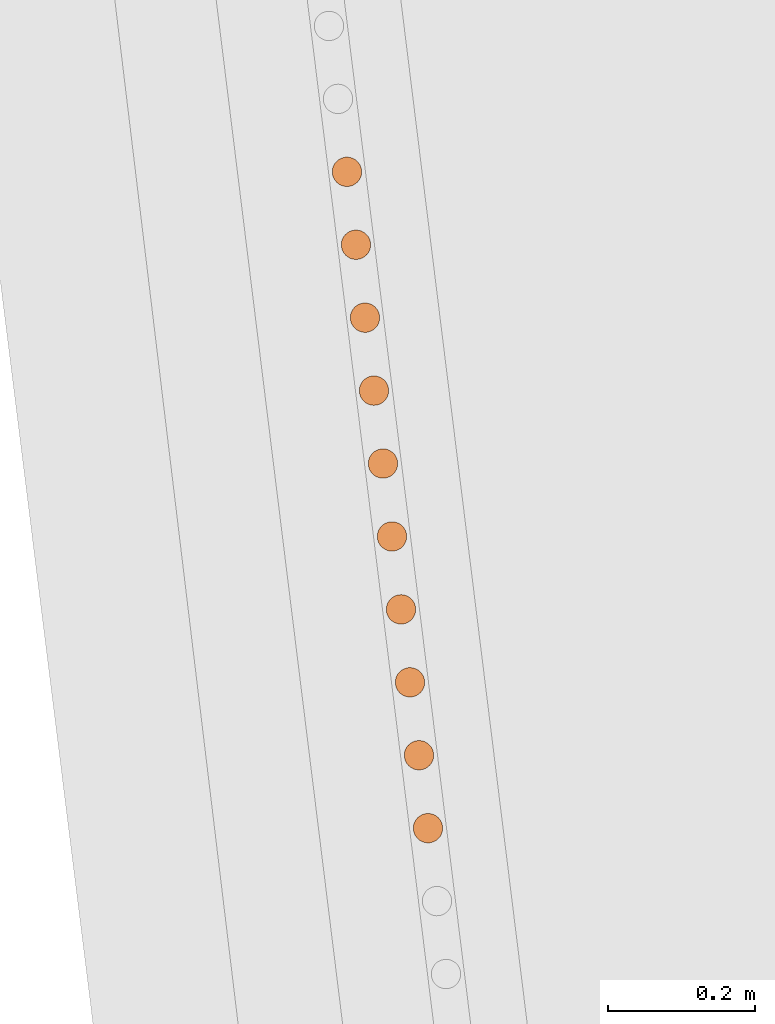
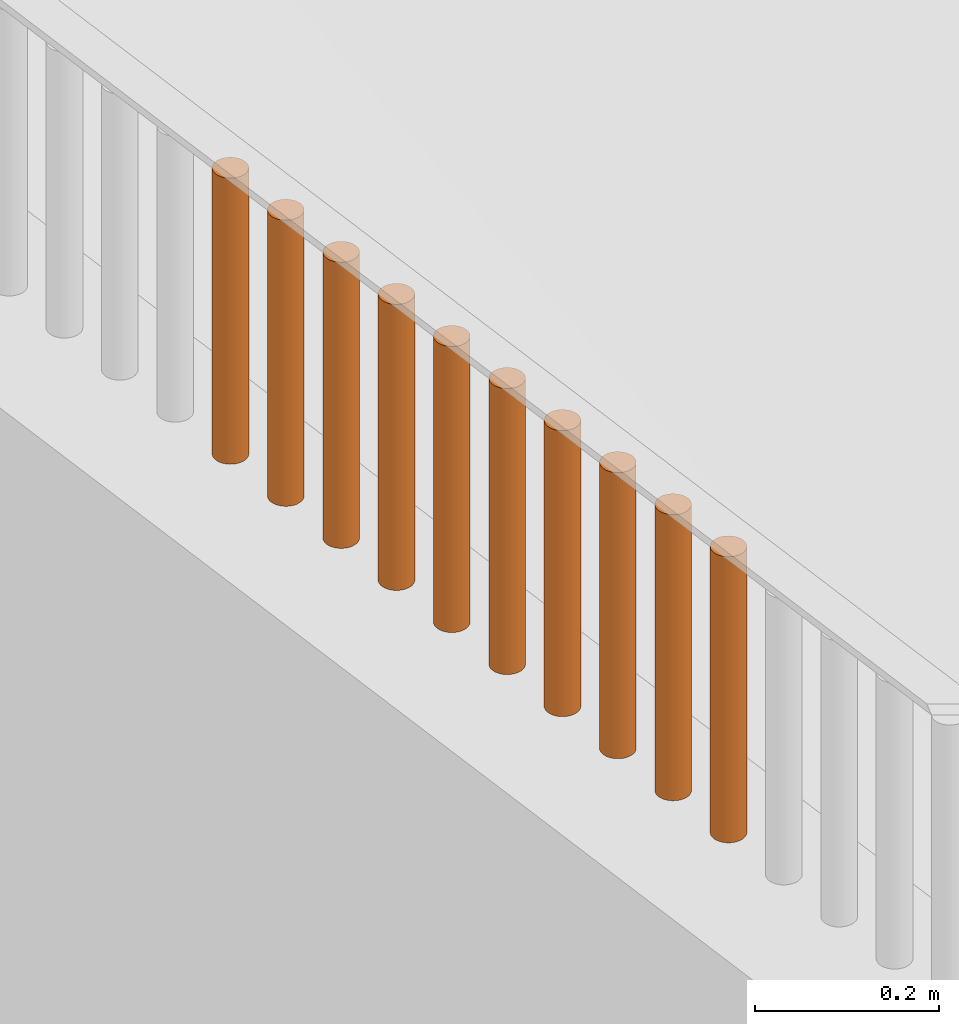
# One storey, part 227 of 1809: 10 proxies, 1 element without a shape of its own.
"""IFC2X3 building model written with IfcOpenShell, lengths in millimetres."""

from ifc_helpers import new_model, entity, si_unit, converted_unit, derived_unit, money_unit, direction, frame, origin_with_axes, place, context, subcontext, project, spatial, faceted_brep, source, transform, mapped, material, type_object, element, aggregate, save


model = new_model("IFC2X3")

# Units and contexts
model_context = context("Model", 3, precision=0.01, world=origin_with_axes(), true_north=direction((0.0, 1.0)))
body_context = subcontext(model_context, "Body", "Model", "MODEL_VIEW")
ifc_project = project(units=[si_unit("LENGTHUNIT", "METRE", prefix="MILLI"), si_unit("AREAUNIT", "SQUARE_METRE"), si_unit("VOLUMEUNIT", "CUBIC_METRE"), converted_unit("PLANEANGLEUNIT", "DEGREE", entity("IfcPlaneAngleMeasure", 0.0174532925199), si_unit("PLANEANGLEUNIT", "RADIAN"), dimensions=[0, 0, 0, 0, 0, 0, 0]), si_unit("SOLIDANGLEUNIT", "STERADIAN"), money_unit("EUR"), converted_unit("TIMEUNIT", "Year", entity("IfcTimeMeasure", 31556926.0), si_unit("TIMEUNIT", "SECOND"), dimensions=[0, 0, 1, 0, 0, 0, 0]), si_unit("MASSUNIT", "GRAM", prefix="KILO"), si_unit("THERMODYNAMICTEMPERATUREUNIT", "DEGREE_CELSIUS"), si_unit("LUMINOUSINTENSITYUNIT", "LUMEN"), si_unit("ENERGYUNIT", "JOULE", prefix="MEGA"), derived_unit("THERMALCONDUCTANCEUNIT", [(si_unit("POWERUNIT", "WATT"), 1), (si_unit("LENGTHUNIT", "METRE"), -1), (si_unit("THERMODYNAMICTEMPERATUREUNIT", "KELVIN"), -1)]), derived_unit("SPECIFICHEATCAPACITYUNIT", [(si_unit("ENERGYUNIT", "JOULE"), 1), (si_unit("MASSUNIT", "GRAM", prefix="KILO"), -1), (si_unit("THERMODYNAMICTEMPERATUREUNIT", "KELVIN"), -1)]), derived_unit("MASSDENSITYUNIT", [(si_unit("MASSUNIT", "GRAM", prefix="KILO"), 1), (si_unit("VOLUMEUNIT", "CUBIC_METRE"), -1)])], contexts=[model_context])

# Site, building, storey
site_placement = place(None, origin_with_axes())
site = spatial("IfcSite", under=ifc_project, at=site_placement, Name="Politse- ja Piirivalveameti ning Päästeameti ühishoone", CompositionType="ELEMENT")
building_placement = place(site_placement, origin_with_axes())
building = spatial("IfcBuilding", under=site, at=building_placement, Name="Politse- ja Piirivalveameti ning Päästeameti ühishoone", CompositionType="ELEMENT")
storey_placement = place(building_placement, origin_with_axes())
storey = spatial("IfcBuildingStorey", under=building, at=storey_placement, Name="Esimene korrus", CompositionType="ELEMENT", Elevation=0.0)

# Proxies
building_element_proxy_type_1 = type_object("IfcBuildingElementProxyType", Name="Railing Type", PredefinedType="NOTDEFINED")
proxy_1_placement = place(storey_placement, frame((-18956.5522504, -53688.4757966, 2100.0), z_axis=(0.0, 0.0, 1.0), x_axis=(1.0, 0.0, 0.0)))
proxy_1 = element("IfcBuildingElementProxy", 1, at=proxy_1_placement, inside=storey, type_object=building_element_proxy_type_1, Name="PIIRDEAED")
ifc_material = material(Name="ET-06_Teras - Konstruktsioon")
building_element_proxy_type_2 = type_object("IfcBuildingElementProxyType", Name="IfcBuildingElementProxy", PredefinedType="NOTDEFINED")
shared_shape_1 = source(origin_with_axes(), body_context, "Body", "Brep", [
    faceted_brep([(0.0, -20.0, 0.0), (3.47296355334, -19.6961550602, 0.0), (3.47296355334, -19.6961550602, 380.000012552), (0.0, -20.0, 380.000012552), (-3.47296355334, -19.6961550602, 0.0), (-6.84040286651, -18.7938524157, 0.0), (-10.0, -17.3205080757, 0.0), (-12.8557521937, -15.3208888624, 0.0), (-15.3208888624, -12.8557521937, 0.0), (-17.3205080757, -10.0, 0.0), (-18.7938524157, -6.84040286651, 0.0), (-19.6961550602, -3.47296355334, 0.0), (-20.0, 0.0, 0.0), (-19.6961550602, 3.47296355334, 0.0), (-18.7938524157, 6.84040286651, 0.0), (-17.3205080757, 10.0, 0.0), (-15.3208888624, 12.8557521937, 0.0), (-12.8557521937, 15.3208888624, 0.0), (-10.0, 17.3205080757, 0.0), (-6.84040286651, 18.7938524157, 0.0), (-3.47296355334, 19.6961550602, 0.0), (0.0, 20.0, 0.0), (3.47296355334, 19.6961550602, 0.0), (6.84040286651, 18.7938524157, 0.0), (10.0, 17.3205080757, 0.0), (12.8557521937, 15.3208888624, 0.0), (15.3208888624, 12.8557521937, 0.0), (17.3205080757, 10.0, 0.0), (18.7938524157, 6.84040286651, 0.0), (19.6961550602, 3.47296355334, 0.0), (20.0, 0.0, 0.0), (19.6961550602, -3.47296355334, 0.0), (18.7938524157, -6.84040286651, 0.0), (17.3205080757, -10.0, 0.0), (15.3208888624, -12.8557521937, 0.0), (12.8557521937, -15.3208888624, 0.0), (10.0, -17.3205080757, 0.0), (6.84040286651, -18.7938524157, 0.0), (6.84040286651, -18.7938524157, 380.000012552), (10.0, -17.3205080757, 380.000012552), (12.8557521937, -15.3208888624, 380.000012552), (15.3208888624, -12.8557521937, 380.000012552), (17.3205080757, -10.0, 380.000012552), (18.7938524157, -6.84040286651, 380.000012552), (19.6961550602, -3.47296355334, 380.000012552), (20.0, 0.0, 380.000012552), (19.6961550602, 3.47296355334, 380.000012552), (18.7938524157, 6.84040286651, 380.000012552), (17.3205080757, 10.0, 380.000012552), (15.3208888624, 12.8557521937, 380.000012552), (12.8557521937, 15.3208888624, 380.000012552), (10.0, 17.3205080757, 380.000012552), (6.84040286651, 18.7938524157, 380.000012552), (3.47296355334, 19.6961550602, 380.000012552), (0.0, 20.0, 380.000012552), (-3.47296355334, 19.6961550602, 380.000012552), (-6.84040286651, 18.7938524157, 380.000012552), (-10.0, 17.3205080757, 380.000012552), (-12.8557521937, 15.3208888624, 380.000012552), (-15.3208888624, 12.8557521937, 380.000012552), (-17.3205080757, 10.0, 380.000012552), (-18.7938524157, 6.84040286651, 380.000012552), (-19.6961550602, 3.47296355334, 380.000012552), (-20.0, 0.0, 380.000012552), (-19.6961550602, -3.47296355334, 380.000012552), (-18.7938524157, -6.84040286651, 380.000012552), (-17.3205080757, -10.0, 380.000012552), (-15.3208888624, -12.8557521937, 380.000012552), (-12.8557521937, -15.3208888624, 380.000012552), (-10.0, -17.3205080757, 380.000012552), (-6.84040286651, -18.7938524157, 380.000012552), (-3.47296355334, -19.6961550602, 380.000012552)], [[[0, 1, 2, 3]], [[0, 4, 5, 6, 7, 8, 9, 10, 11, 12, 13, 14, 15, 16, 17, 18, 19, 20, 21, 22, 23, 24, 25, 26, 27, 28, 29, 30, 31, 32, 33, 34, 35, 36, 37, 1]], [[1, 37, 38, 2]], [[3, 2, 38, 39, 40, 41, 42, 43, 44, 45, 46, 47, 48, 49, 50, 51, 52, 53, 54, 55, 56, 57, 58, 59, 60, 61, 62, 63, 64, 65, 66, 67, 68, 69, 70, 71]], [[4, 0, 3, 71]], [[5, 4, 71, 70]], [[6, 5, 70, 69]], [[7, 6, 69, 68]], [[8, 7, 68, 67]], [[9, 8, 67, 66]], [[10, 9, 66, 65]], [[11, 10, 65, 64]], [[12, 11, 64, 63]], [[13, 12, 63, 62]], [[14, 13, 62, 61]], [[15, 14, 61, 60]], [[16, 15, 60, 59]], [[17, 16, 59, 58]], [[18, 17, 58, 57]], [[19, 18, 57, 56]], [[20, 19, 56, 55]], [[21, 20, 55, 54]], [[22, 21, 54, 53]], [[23, 22, 53, 52]], [[24, 23, 52, 51]], [[25, 24, 51, 50]], [[26, 25, 50, 49]], [[27, 26, 49, 48]], [[28, 27, 48, 47]], [[29, 28, 47, 46]], [[30, 29, 46, 45]], [[31, 30, 45, 44]], [[32, 31, 44, 43]], [[33, 32, 43, 42]], [[34, 33, 42, 41]], [[35, 34, 41, 40]], [[36, 35, 40, 39]], [[37, 36, 39, 38]]]),
])
proxy_2_placement = place(proxy_1_placement, frame((-5702.47169293, 45364.700838, -1.25517001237e-05), z_axis=(0.0, 0.0, 1.0), x_axis=(1.0, 0.0, 0.0)))
proxy_2 = element("IfcBuildingElementProxy", 2, at=proxy_2_placement, type_object=building_element_proxy_type_2, material=ifc_material, Name="BALUSTER - 001", context=body_context, shape_type="MappedRepresentation", body=[
    mapped(shared_shape_1, transform((0.0, 0.0, 0.0), x_axis=(0.992468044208, 0.122503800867, 0.0), y_axis=(-0.122503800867, 0.992468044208, 0.0), z_axis=(0.0, 0.0, 1.0))),
])
proxy_3_placement = place(proxy_1_placement, frame((-5726.96710276, 45563.1511008, -1.25517001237e-05), z_axis=(0.0, 0.0, 1.0), x_axis=(1.0, 0.0, 0.0)))
proxy_3 = element("IfcBuildingElementProxy", 3, at=proxy_3_placement, type_object=building_element_proxy_type_2, material=ifc_material, Name="BALUSTER - 001", context=body_context, shape_type="MappedRepresentation", body=[
    mapped(shared_shape_1, transform((0.0, 0.0, 0.0), x_axis=(0.992468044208, 0.122503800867, 0.0), y_axis=(-0.122503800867, 0.992468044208, 0.0), z_axis=(0.0, 0.0, 1.0))),
])
proxy_4_placement = place(proxy_1_placement, frame((-5739.21480767, 45662.3762322, -1.25517001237e-05), z_axis=(0.0, 0.0, 1.0), x_axis=(1.0, 0.0, 0.0)))
proxy_4 = element("IfcBuildingElementProxy", 4, at=proxy_4_placement, type_object=building_element_proxy_type_2, material=ifc_material, Name="BALUSTER - 001", context=body_context, shape_type="MappedRepresentation", body=[
    mapped(shared_shape_1, transform((0.0, 0.0, 0.0), x_axis=(0.992468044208, 0.122503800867, 0.0), y_axis=(-0.122503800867, 0.992468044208, 0.0), z_axis=(0.0, 0.0, 1.0))),
])
proxy_5_placement = place(proxy_1_placement, frame((-5751.46251258, 45761.6013637, -1.25517001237e-05), z_axis=(0.0, 0.0, 1.0), x_axis=(1.0, 0.0, 0.0)))
proxy_5 = element("IfcBuildingElementProxy", 5, at=proxy_5_placement, type_object=building_element_proxy_type_2, material=ifc_material, Name="BALUSTER - 001", context=body_context, shape_type="MappedRepresentation", body=[
    mapped(shared_shape_1, transform((0.0, 0.0, 0.0), x_axis=(0.992468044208, 0.122503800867, 0.0), y_axis=(-0.122503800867, 0.992468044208, 0.0), z_axis=(0.0, 0.0, 1.0))),
])
shared_shape_2 = source(origin_with_axes(), body_context, "Body", "Brep", [
    faceted_brep([(0.0, -20.0, 0.0), (3.47296355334, -19.6961550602, 0.0), (3.47296355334, -19.6961550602, 380.000012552), (0.0, -20.0, 380.000012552), (-3.47296355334, -19.6961550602, 0.0), (-6.84040286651, -18.7938524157, 0.0), (-10.0, -17.3205080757, 0.0), (-12.8557521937, -15.3208888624, 0.0), (-15.3208888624, -12.8557521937, 0.0), (-17.3205080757, -10.0, 0.0), (-18.7938524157, -6.84040286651, 0.0), (-19.6961550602, -3.47296355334, 0.0), (-20.0, 0.0, 0.0), (-19.6961550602, 3.47296355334, 0.0), (-18.7938524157, 6.84040286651, 0.0), (-17.3205080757, 10.0, 0.0), (-15.3208888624, 12.8557521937, 0.0), (-12.8557521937, 15.3208888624, 0.0), (-10.0, 17.3205080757, 0.0), (-6.84040286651, 18.7938524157, 0.0), (-3.47296355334, 19.6961550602, 0.0), (0.0, 20.0, 0.0), (3.47296355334, 19.6961550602, 0.0), (6.84040286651, 18.7938524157, 0.0), (10.0, 17.3205080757, 0.0), (12.8557521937, 15.3208888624, 0.0), (15.3208888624, 12.8557521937, 0.0), (17.3205080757, 10.0, 0.0), (18.7938524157, 6.84040286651, 0.0), (19.6961550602, 3.47296355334, 0.0), (20.0, 0.0, 0.0), (19.6961550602, -3.47296355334, 0.0), (18.7938524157, -6.84040286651, 0.0), (17.3205080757, -10.0, 0.0), (15.3208888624, -12.8557521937, 0.0), (12.8557521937, -15.3208888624, 0.0), (10.0, -17.3205080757, 0.0), (6.84040286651, -18.7938524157, 0.0), (6.84040286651, -18.7938524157, 380.000012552), (10.0, -17.3205080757, 380.000012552), (12.8557521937, -15.3208888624, 380.000012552), (15.3208888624, -12.8557521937, 380.000012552), (17.3205080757, -10.0, 380.000012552), (18.7938524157, -6.84040286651, 380.000012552), (19.6961550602, -3.47296355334, 380.000012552), (20.0, 0.0, 380.000012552), (19.6961550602, 3.47296355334, 380.000012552), (18.7938524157, 6.84040286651, 380.000012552), (17.3205080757, 10.0, 380.000012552), (15.3208888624, 12.8557521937, 380.000012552), (12.8557521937, 15.3208888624, 380.000012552), (10.0, 17.3205080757, 380.000012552), (6.84040286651, 18.7938524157, 380.000012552), (3.47296355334, 19.6961550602, 380.000012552), (0.0, 20.0, 380.000012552), (-3.47296355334, 19.6961550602, 380.000012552), (-6.84040286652, 18.7938524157, 380.000012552), (-10.0, 17.3205080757, 380.000012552), (-12.8557521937, 15.3208888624, 380.000012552), (-15.3208888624, 12.8557521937, 380.000012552), (-17.3205080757, 10.0, 380.000012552), (-18.7938524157, 6.84040286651, 380.000012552), (-19.6961550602, 3.47296355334, 380.000012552), (-20.0, 0.0, 380.000012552), (-19.6961550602, -3.47296355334, 380.000012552), (-18.7938524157, -6.84040286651, 380.000012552), (-17.3205080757, -10.0, 380.000012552), (-15.3208888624, -12.8557521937, 380.000012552), (-12.8557521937, -15.3208888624, 380.000012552), (-10.0, -17.3205080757, 380.000012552), (-6.84040286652, -18.7938524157, 380.000012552), (-3.47296355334, -19.6961550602, 380.000012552)], [[[0, 1, 2, 3]], [[0, 4, 5, 6, 7, 8, 9, 10, 11, 12, 13, 14, 15, 16, 17, 18, 19, 20, 21, 22, 23, 24, 25, 26, 27, 28, 29, 30, 31, 32, 33, 34, 35, 36, 37, 1]], [[1, 37, 38, 2]], [[3, 2, 38, 39, 40, 41, 42, 43, 44, 45, 46, 47, 48, 49, 50, 51, 52, 53, 54, 55, 56, 57, 58, 59, 60, 61, 62, 63, 64, 65, 66, 67, 68, 69, 70, 71]], [[4, 0, 3, 71]], [[5, 4, 71, 70]], [[6, 5, 70, 69]], [[7, 6, 69, 68]], [[8, 7, 68, 67]], [[9, 8, 67, 66]], [[10, 9, 66, 65]], [[11, 10, 65, 64]], [[12, 11, 64, 63]], [[13, 12, 63, 62]], [[14, 13, 62, 61]], [[15, 14, 61, 60]], [[16, 15, 60, 59]], [[17, 16, 59, 58]], [[18, 17, 58, 57]], [[19, 18, 57, 56]], [[20, 19, 56, 55]], [[21, 20, 55, 54]], [[22, 21, 54, 53]], [[23, 22, 53, 52]], [[24, 23, 52, 51]], [[25, 24, 51, 50]], [[26, 25, 50, 49]], [[27, 26, 49, 48]], [[28, 27, 48, 47]], [[29, 28, 47, 46]], [[30, 29, 46, 45]], [[31, 30, 45, 44]], [[32, 31, 44, 43]], [[33, 32, 43, 42]], [[34, 33, 42, 41]], [[35, 34, 41, 40]], [[36, 35, 40, 39]], [[37, 36, 39, 38]]]),
])
proxy_6_placement = place(proxy_1_placement, frame((-5775.95792241, 45960.0516265, -1.25517001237e-05), z_axis=(0.0, 0.0, 1.0), x_axis=(1.0, 0.0, 0.0)))
proxy_6 = element("IfcBuildingElementProxy", 6, at=proxy_6_placement, type_object=building_element_proxy_type_2, material=ifc_material, Name="BALUSTER - 001", context=body_context, shape_type="MappedRepresentation", body=[
    mapped(shared_shape_2, transform((0.0, 0.0, 0.0), x_axis=(0.992468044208, 0.122503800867, 0.0), y_axis=(-0.122503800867, 0.992468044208, 0.0), z_axis=(0.0, 0.0, 1.0))),
])
shared_shape_3 = source(origin_with_axes(), body_context, "Body", "Brep", [
    faceted_brep([(0.0, -20.0, 0.0), (3.47296355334, -19.6961550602, 0.0), (3.47296355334, -19.6961550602, 380.000012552), (0.0, -20.0, 380.000012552), (-3.47296355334, -19.6961550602, 0.0), (-6.84040286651, -18.7938524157, 0.0), (-10.0, -17.3205080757, 0.0), (-12.8557521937, -15.3208888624, 0.0), (-15.3208888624, -12.8557521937, 0.0), (-17.3205080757, -10.0, 0.0), (-18.7938524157, -6.84040286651, 0.0), (-19.6961550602, -3.47296355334, 0.0), (-20.0, 0.0, 0.0), (-19.6961550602, 3.47296355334, 0.0), (-18.7938524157, 6.84040286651, 0.0), (-17.3205080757, 10.0, 0.0), (-15.3208888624, 12.8557521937, 0.0), (-12.8557521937, 15.3208888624, 0.0), (-10.0, 17.3205080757, 0.0), (-6.84040286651, 18.7938524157, 0.0), (-3.47296355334, 19.6961550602, 0.0), (0.0, 20.0, 0.0), (3.47296355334, 19.6961550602, 0.0), (6.84040286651, 18.7938524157, 0.0), (10.0, 17.3205080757, 0.0), (12.8557521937, 15.3208888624, 0.0), (15.3208888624, 12.8557521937, 0.0), (17.3205080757, 10.0, 0.0), (18.7938524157, 6.84040286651, 0.0), (19.6961550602, 3.47296355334, 0.0), (20.0, 0.0, 0.0), (19.6961550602, -3.47296355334, 0.0), (18.7938524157, -6.84040286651, 0.0), (17.3205080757, -10.0, 0.0), (15.3208888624, -12.8557521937, 0.0), (12.8557521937, -15.3208888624, 0.0), (10.0, -17.3205080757, 0.0), (6.84040286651, -18.7938524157, 0.0), (6.84040286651, -18.7938524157, 380.000012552), (10.0, -17.3205080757, 380.000012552), (12.8557521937, -15.3208888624, 380.000012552), (15.3208888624, -12.8557521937, 380.000012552), (17.3205080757, -10.0, 380.000012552), (18.7938524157, -6.84040286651, 380.000012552), (19.6961550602, -3.47296355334, 380.000012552), (20.0, 0.0, 380.000012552), (19.6961550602, 3.47296355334, 380.000012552), (18.7938524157, 6.84040286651, 380.000012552), (17.3205080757, 10.0, 380.000012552), (15.3208888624, 12.8557521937, 380.000012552), (12.8557521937, 15.3208888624, 380.000012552), (10.0, 17.3205080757, 380.000012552), (6.84040286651, 18.7938524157, 380.000012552), (3.47296355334, 19.6961550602, 380.000012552), (0.0, 20.0, 380.000012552), (-3.47296355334, 19.6961550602, 380.000012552), (-6.84040286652, 18.7938524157, 380.000012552), (-10.0, 17.3205080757, 380.000012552), (-12.8557521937, 15.3208888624, 380.000012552), (-15.3208888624, 12.8557521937, 380.000012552), (-17.3205080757, 10.0, 380.000012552), (-18.7938524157, 6.84040286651, 380.000012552), (-19.6961550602, 3.47296355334, 380.000012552), (-20.0, 0.0, 380.000012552), (-19.6961550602, -3.47296355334, 380.000012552), (-18.7938524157, -6.84040286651, 380.000012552), (-17.3205080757, -10.0, 380.000012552), (-15.3208888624, -12.8557521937, 380.000012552), (-12.8557521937, -15.3208888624, 380.000012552), (-10.0, -17.3205080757, 380.000012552), (-6.84040286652, -18.7938524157, 380.000012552), (-3.47296355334, -19.6961550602, 380.000012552)], [[[0, 1, 2, 3]], [[0, 4, 5, 6, 7, 8, 9, 10, 11, 12, 13, 14, 15, 16, 17, 18, 19, 20, 21, 22, 23, 24, 25, 26, 27, 28, 29, 30, 31, 32, 33, 34, 35, 36, 37, 1]], [[1, 37, 38, 2]], [[3, 2, 38, 39, 40, 41, 42, 43, 44, 45, 46, 47, 48, 49, 50, 51, 52, 53, 54, 55, 56, 57, 58, 59, 60, 61, 62, 63, 64, 65, 66, 67, 68, 69, 70, 71]], [[4, 0, 3, 71]], [[5, 4, 71, 70]], [[6, 5, 70, 69]], [[7, 6, 69, 68]], [[8, 7, 68, 67]], [[9, 8, 67, 66]], [[10, 9, 66, 65]], [[11, 10, 65, 64]], [[12, 11, 64, 63]], [[13, 12, 63, 62]], [[14, 13, 62, 61]], [[15, 14, 61, 60]], [[16, 15, 60, 59]], [[17, 16, 59, 58]], [[18, 17, 58, 57]], [[19, 18, 57, 56]], [[20, 19, 56, 55]], [[21, 20, 55, 54]], [[22, 21, 54, 53]], [[23, 22, 53, 52]], [[24, 23, 52, 51]], [[25, 24, 51, 50]], [[26, 25, 50, 49]], [[27, 26, 49, 48]], [[28, 27, 48, 47]], [[29, 28, 47, 46]], [[30, 29, 46, 45]], [[31, 30, 45, 44]], [[32, 31, 44, 43]], [[33, 32, 43, 42]], [[34, 33, 42, 41]], [[35, 34, 41, 40]], [[36, 35, 40, 39]], [[37, 36, 39, 38]]]),
])
proxy_7_placement = place(proxy_1_placement, frame((-5763.7102175, 45860.8264951, -1.25517001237e-05), z_axis=(0.0, 0.0, 1.0), x_axis=(1.0, 0.0, 0.0)))
proxy_7 = element("IfcBuildingElementProxy", 7, at=proxy_7_placement, type_object=building_element_proxy_type_2, material=ifc_material, Name="BALUSTER - 001", context=body_context, shape_type="MappedRepresentation", body=[
    mapped(shared_shape_3, transform((0.0, 0.0, 0.0), x_axis=(0.992468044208, 0.122503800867, 0.0), y_axis=(-0.122503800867, 0.992468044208, 0.0), z_axis=(0.0, 0.0, 1.0))),
])
proxy_8_placement = place(proxy_1_placement, frame((-5812.70103715, 46257.7270208, -1.25517001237e-05), z_axis=(0.0, 0.0, 1.0), x_axis=(1.0, 0.0, 0.0)))
proxy_8 = element("IfcBuildingElementProxy", 8, at=proxy_8_placement, type_object=building_element_proxy_type_2, material=ifc_material, Name="BALUSTER - 001", context=body_context, shape_type="MappedRepresentation", body=[
    mapped(shared_shape_3, transform((0.0, 0.0, 0.0), x_axis=(0.992468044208, 0.122503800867, 0.0), y_axis=(-0.122503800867, 0.992468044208, 0.0), z_axis=(0.0, 0.0, 1.0))),
])
shared_shape_4 = source(origin_with_axes(), body_context, "Body", "Brep", [
    faceted_brep([(0.0, -20.0, 0.0), (3.47296355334, -19.6961550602, 0.0), (3.47296355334, -19.6961550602, 380.000012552), (0.0, -20.0, 380.000012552), (-3.47296355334, -19.6961550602, 0.0), (-6.84040286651, -18.7938524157, 0.0), (-10.0, -17.3205080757, 0.0), (-12.8557521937, -15.3208888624, 0.0), (-15.3208888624, -12.8557521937, 0.0), (-17.3205080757, -10.0, 0.0), (-18.7938524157, -6.84040286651, 0.0), (-19.6961550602, -3.47296355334, 0.0), (-20.0, 0.0, 0.0), (-19.6961550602, 3.47296355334, 0.0), (-18.7938524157, 6.84040286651, 0.0), (-17.3205080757, 10.0, 0.0), (-15.3208888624, 12.8557521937, 0.0), (-12.8557521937, 15.3208888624, 0.0), (-10.0, 17.3205080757, 0.0), (-6.84040286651, 18.7938524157, 0.0), (-3.47296355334, 19.6961550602, 0.0), (0.0, 20.0, 0.0), (3.47296355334, 19.6961550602, 0.0), (6.84040286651, 18.7938524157, 0.0), (10.0, 17.3205080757, 0.0), (12.8557521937, 15.3208888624, 0.0), (15.3208888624, 12.8557521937, 0.0), (17.3205080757, 10.0, 0.0), (18.7938524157, 6.84040286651, 0.0), (19.6961550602, 3.47296355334, 0.0), (20.0, 0.0, 0.0), (19.6961550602, -3.47296355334, 0.0), (18.7938524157, -6.84040286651, 0.0), (17.3205080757, -10.0, 0.0), (15.3208888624, -12.8557521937, 0.0), (12.8557521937, -15.3208888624, 0.0), (10.0, -17.3205080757, 0.0), (6.84040286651, -18.7938524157, 0.0), (6.84040286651, -18.7938524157, 380.000012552), (10.0, -17.3205080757, 380.000012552), (12.8557521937, -15.3208888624, 380.000012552), (15.3208888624, -12.8557521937, 380.000012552), (17.3205080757, -10.0, 380.000012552), (18.7938524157, -6.84040286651, 380.000012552), (19.6961550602, -3.47296355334, 380.000012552), (20.0, 0.0, 380.000012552), (19.6961550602, 3.47296355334, 380.000012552), (18.7938524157, 6.84040286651, 380.000012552), (17.3205080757, 10.0, 380.000012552), (15.3208888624, 12.8557521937, 380.000012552), (12.8557521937, 15.3208888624, 380.000012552), (10.0, 17.3205080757, 380.000012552), (6.84040286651, 18.7938524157, 380.000012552), (3.47296355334, 19.6961550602, 380.000012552), (0.0, 20.0, 380.000012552), (-3.47296355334, 19.6961550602, 380.000012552), (-6.84040286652, 18.7938524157, 380.000012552), (-10.0, 17.3205080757, 380.000012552), (-12.8557521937, 15.3208888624, 380.000012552), (-15.3208888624, 12.8557521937, 380.000012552), (-17.3205080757, 10.0, 380.000012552), (-18.7938524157, 6.84040286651, 380.000012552), (-19.6961550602, 3.47296355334, 380.000012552), (-20.0, 0.0, 380.000012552), (-19.6961550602, -3.47296355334, 380.000012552), (-18.7938524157, -6.84040286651, 380.000012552), (-17.3205080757, -10.0, 380.000012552), (-15.3208888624, -12.8557521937, 380.000012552), (-12.8557521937, -15.3208888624, 380.000012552), (-10.0, -17.3205080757, 380.000012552), (-6.84040286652, -18.7938524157, 380.000012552), (-3.47296355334, -19.6961550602, 380.000012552)], [[[0, 1, 2, 3]], [[0, 4, 5, 6, 7, 8, 9, 10, 11, 12, 13, 14, 15, 16, 17, 18, 19, 20, 21, 22, 23, 24, 25, 26, 27, 28, 29, 30, 31, 32, 33, 34, 35, 36, 37, 1]], [[1, 37, 38, 2]], [[3, 2, 38, 39, 40, 41, 42, 43, 44, 45, 46, 47, 48, 49, 50, 51, 52, 53, 54, 55, 56, 57, 58, 59, 60, 61, 62, 63, 64, 65, 66, 67, 68, 69, 70, 71]], [[4, 0, 3, 71]], [[5, 4, 71, 70]], [[6, 5, 70, 69]], [[7, 6, 69, 68]], [[8, 7, 68, 67]], [[9, 8, 67, 66]], [[10, 9, 66, 65]], [[11, 10, 65, 64]], [[12, 11, 64, 63]], [[13, 12, 63, 62]], [[14, 13, 62, 61]], [[15, 14, 61, 60]], [[16, 15, 60, 59]], [[17, 16, 59, 58]], [[18, 17, 58, 57]], [[19, 18, 57, 56]], [[20, 19, 56, 55]], [[21, 20, 55, 54]], [[22, 21, 54, 53]], [[23, 22, 53, 52]], [[24, 23, 52, 51]], [[25, 24, 51, 50]], [[26, 25, 50, 49]], [[27, 26, 49, 48]], [[28, 27, 48, 47]], [[29, 28, 47, 46]], [[30, 29, 46, 45]], [[31, 30, 45, 44]], [[32, 31, 44, 43]], [[33, 32, 43, 42]], [[34, 33, 42, 41]], [[35, 34, 41, 40]], [[36, 35, 40, 39]], [[37, 36, 39, 38]]]),
])
proxy_9_placement = place(proxy_1_placement, frame((-5714.71939784, 45463.9259694, -1.25517001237e-05), z_axis=(0.0, 0.0, 1.0), x_axis=(1.0, 0.0, 0.0)))
proxy_9 = element("IfcBuildingElementProxy", 9, at=proxy_9_placement, type_object=building_element_proxy_type_2, material=ifc_material, Name="BALUSTER - 001", context=body_context, shape_type="MappedRepresentation", body=[
    mapped(shared_shape_4, transform((0.0, 0.0, 0.0), x_axis=(0.992468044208, 0.122503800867, 0.0), y_axis=(-0.122503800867, 0.992468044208, 0.0), z_axis=(0.0, 0.0, 1.0))),
])
shared_shape_5 = source(origin_with_axes(), body_context, "Body", "Brep", [
    faceted_brep([(0.0, -20.0, 0.0), (3.47296355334, -19.6961550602, 0.0), (3.47296355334, -19.6961550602, 380.000012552), (0.0, -20.0, 380.000012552), (-3.47296355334, -19.6961550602, 0.0), (-6.84040286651, -18.7938524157, 0.0), (-10.0, -17.3205080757, 0.0), (-12.8557521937, -15.3208888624, 0.0), (-15.3208888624, -12.8557521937, 0.0), (-17.3205080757, -10.0, 0.0), (-18.7938524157, -6.84040286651, 0.0), (-19.6961550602, -3.47296355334, 0.0), (-20.0, 0.0, 0.0), (-19.6961550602, 3.47296355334, 0.0), (-18.7938524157, 6.84040286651, 0.0), (-17.3205080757, 10.0, 0.0), (-15.3208888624, 12.8557521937, 0.0), (-12.8557521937, 15.3208888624, 0.0), (-10.0, 17.3205080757, 0.0), (-6.84040286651, 18.7938524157, 0.0), (-3.47296355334, 19.6961550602, 0.0), (0.0, 20.0, 0.0), (3.47296355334, 19.6961550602, 0.0), (6.84040286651, 18.7938524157, 0.0), (10.0, 17.3205080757, 0.0), (12.8557521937, 15.3208888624, 0.0), (15.3208888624, 12.8557521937, 0.0), (17.3205080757, 10.0, 0.0), (18.7938524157, 6.84040286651, 0.0), (19.6961550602, 3.47296355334, 0.0), (20.0, 0.0, 0.0), (19.6961550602, -3.47296355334, 0.0), (18.7938524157, -6.84040286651, 0.0), (17.3205080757, -10.0, 0.0), (15.3208888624, -12.8557521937, 0.0), (12.8557521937, -15.3208888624, 0.0), (10.0, -17.3205080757, 0.0), (6.84040286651, -18.7938524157, 0.0), (6.84040286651, -18.7938524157, 380.000012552), (10.0, -17.3205080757, 380.000012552), (12.8557521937, -15.3208888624, 380.000012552), (15.3208888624, -12.8557521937, 380.000012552), (17.3205080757, -10.0, 380.000012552), (18.7938524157, -6.84040286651, 380.000012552), (19.6961550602, -3.47296355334, 380.000012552), (20.0, 0.0, 380.000012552), (19.6961550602, 3.47296355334, 380.000012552), (18.7938524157, 6.84040286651, 380.000012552), (17.3205080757, 10.0, 380.000012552), (15.3208888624, 12.8557521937, 380.000012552), (12.8557521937, 15.3208888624, 380.000012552), (10.0, 17.3205080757, 380.000012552), (6.84040286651, 18.7938524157, 380.000012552), (3.47296355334, 19.6961550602, 380.000012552), (0.0, 20.0, 380.000012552), (-3.47296355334, 19.6961550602, 380.000012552), (-6.84040286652, 18.7938524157, 380.000012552), (-10.0, 17.3205080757, 380.000012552), (-12.8557521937, 15.3208888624, 380.000012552), (-15.3208888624, 12.8557521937, 380.000012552), (-17.3205080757, 10.0, 380.000012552), (-18.7938524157, 6.84040286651, 380.000012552), (-19.6961550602, 3.47296355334, 380.000012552), (-20.0, 0.0, 380.000012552), (-19.6961550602, -3.47296355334, 380.000012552), (-18.7938524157, -6.84040286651, 380.000012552), (-17.3205080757, -10.0, 380.000012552), (-15.3208888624, -12.8557521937, 380.000012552), (-12.8557521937, -15.3208888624, 380.000012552), (-10.0, -17.3205080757, 380.000012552), (-6.84040286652, -18.7938524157, 380.000012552), (-3.47296355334, -19.6961550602, 380.000012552)], [[[0, 1, 2, 3]], [[0, 4, 5, 6, 7, 8, 9, 10, 11, 12, 13, 14, 15, 16, 17, 18, 19, 20, 21, 22, 23, 24, 25, 26, 27, 28, 29, 30, 31, 32, 33, 34, 35, 36, 37, 1]], [[1, 37, 38, 2]], [[3, 2, 38, 39, 40, 41, 42, 43, 44, 45, 46, 47, 48, 49, 50, 51, 52, 53, 54, 55, 56, 57, 58, 59, 60, 61, 62, 63, 64, 65, 66, 67, 68, 69, 70, 71]], [[4, 0, 3, 71]], [[5, 4, 71, 70]], [[6, 5, 70, 69]], [[7, 6, 69, 68]], [[8, 7, 68, 67]], [[9, 8, 67, 66]], [[10, 9, 66, 65]], [[11, 10, 65, 64]], [[12, 11, 64, 63]], [[13, 12, 63, 62]], [[14, 13, 62, 61]], [[15, 14, 61, 60]], [[16, 15, 60, 59]], [[17, 16, 59, 58]], [[18, 17, 58, 57]], [[19, 18, 57, 56]], [[20, 19, 56, 55]], [[21, 20, 55, 54]], [[22, 21, 54, 53]], [[23, 22, 53, 52]], [[24, 23, 52, 51]], [[25, 24, 51, 50]], [[26, 25, 50, 49]], [[27, 26, 49, 48]], [[28, 27, 48, 47]], [[29, 28, 47, 46]], [[30, 29, 46, 45]], [[31, 30, 45, 44]], [[32, 31, 44, 43]], [[33, 32, 43, 42]], [[34, 33, 42, 41]], [[35, 34, 41, 40]], [[36, 35, 40, 39]], [[37, 36, 39, 38]]]),
])
proxy_10_placement = place(proxy_1_placement, frame((-5800.45333224, 46158.5018894, -1.25517001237e-05), z_axis=(0.0, 0.0, 1.0), x_axis=(1.0, 0.0, 0.0)))
proxy_10 = element("IfcBuildingElementProxy", 10, at=proxy_10_placement, type_object=building_element_proxy_type_2, material=ifc_material, Name="BALUSTER - 001", context=body_context, shape_type="MappedRepresentation", body=[
    mapped(shared_shape_5, transform((0.0, 0.0, 0.0), x_axis=(0.992468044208, 0.122503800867, 0.0), y_axis=(-0.122503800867, 0.992468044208, 0.0), z_axis=(0.0, 0.0, 1.0))),
])
shared_shape_6 = source(origin_with_axes(), body_context, "Body", "Brep", [
    faceted_brep([(0.0, -20.0, 0.0), (3.47296355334, -19.6961550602, 0.0), (3.47296355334, -19.6961550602, 380.000012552), (0.0, -20.0, 380.000012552), (-3.47296355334, -19.6961550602, 0.0), (-6.84040286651, -18.7938524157, 0.0), (-10.0, -17.3205080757, 0.0), (-12.8557521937, -15.3208888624, 0.0), (-15.3208888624, -12.8557521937, 0.0), (-17.3205080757, -10.0, 0.0), (-18.7938524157, -6.84040286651, 0.0), (-19.6961550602, -3.47296355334, 0.0), (-20.0, 0.0, 0.0), (-19.6961550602, 3.47296355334, 0.0), (-18.7938524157, 6.84040286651, 0.0), (-17.3205080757, 10.0, 0.0), (-15.3208888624, 12.8557521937, 0.0), (-12.8557521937, 15.3208888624, 0.0), (-10.0, 17.3205080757, 0.0), (-6.84040286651, 18.7938524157, 0.0), (-3.47296355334, 19.6961550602, 0.0), (0.0, 20.0, 0.0), (3.47296355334, 19.6961550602, 0.0), (6.84040286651, 18.7938524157, 0.0), (10.0, 17.3205080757, 0.0), (12.8557521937, 15.3208888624, 0.0), (15.3208888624, 12.8557521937, 0.0), (17.3205080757, 10.0, 0.0), (18.7938524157, 6.84040286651, 0.0), (19.6961550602, 3.47296355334, 0.0), (20.0, 0.0, 0.0), (19.6961550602, -3.47296355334, 0.0), (18.7938524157, -6.84040286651, 0.0), (17.3205080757, -10.0, 0.0), (15.3208888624, -12.8557521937, 0.0), (12.8557521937, -15.3208888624, 0.0), (10.0, -17.3205080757, 0.0), (6.84040286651, -18.7938524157, 0.0), (6.84040286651, -18.7938524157, 380.000012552), (10.0, -17.3205080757, 380.000012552), (12.8557521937, -15.3208888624, 380.000012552), (15.3208888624, -12.8557521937, 380.000012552), (17.3205080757, -10.0, 380.000012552), (18.7938524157, -6.84040286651, 380.000012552), (19.6961550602, -3.47296355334, 380.000012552), (20.0, 0.0, 380.000012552), (19.6961550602, 3.47296355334, 380.000012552), (18.7938524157, 6.84040286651, 380.000012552), (17.3205080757, 10.0, 380.000012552), (15.3208888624, 12.8557521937, 380.000012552), (12.8557521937, 15.3208888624, 380.000012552), (10.0, 17.3205080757, 380.000012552), (6.84040286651, 18.7938524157, 380.000012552), (3.47296355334, 19.6961550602, 380.000012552), (0.0, 20.0, 380.000012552), (-3.47296355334, 19.6961550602, 380.000012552), (-6.84040286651, 18.7938524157, 380.000012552), (-10.0, 17.3205080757, 380.000012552), (-12.8557521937, 15.3208888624, 380.000012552), (-15.3208888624, 12.8557521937, 380.000012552), (-17.3205080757, 10.0, 380.000012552), (-18.7938524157, 6.84040286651, 380.000012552), (-19.6961550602, 3.47296355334, 380.000012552), (-20.0, 0.0, 380.000012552), (-19.6961550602, -3.47296355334, 380.000012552), (-18.7938524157, -6.84040286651, 380.000012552), (-17.3205080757, -10.0, 380.000012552), (-15.3208888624, -12.8557521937, 380.000012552), (-12.8557521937, -15.3208888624, 380.000012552), (-10.0, -17.3205080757, 380.000012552), (-6.84040286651, -18.7938524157, 380.000012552), (-3.47296355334, -19.6961550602, 380.000012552)], [[[0, 1, 2, 3]], [[0, 4, 5, 6, 7, 8, 9, 10, 11, 12, 13, 14, 15, 16, 17, 18, 19, 20, 21, 22, 23, 24, 25, 26, 27, 28, 29, 30, 31, 32, 33, 34, 35, 36, 37, 1]], [[1, 37, 38, 2]], [[3, 2, 38, 39, 40, 41, 42, 43, 44, 45, 46, 47, 48, 49, 50, 51, 52, 53, 54, 55, 56, 57, 58, 59, 60, 61, 62, 63, 64, 65, 66, 67, 68, 69, 70, 71]], [[4, 0, 3, 71]], [[5, 4, 71, 70]], [[6, 5, 70, 69]], [[7, 6, 69, 68]], [[8, 7, 68, 67]], [[9, 8, 67, 66]], [[10, 9, 66, 65]], [[11, 10, 65, 64]], [[12, 11, 64, 63]], [[13, 12, 63, 62]], [[14, 13, 62, 61]], [[15, 14, 61, 60]], [[16, 15, 60, 59]], [[17, 16, 59, 58]], [[18, 17, 58, 57]], [[19, 18, 57, 56]], [[20, 19, 56, 55]], [[21, 20, 55, 54]], [[22, 21, 54, 53]], [[23, 22, 53, 52]], [[24, 23, 52, 51]], [[25, 24, 51, 50]], [[26, 25, 50, 49]], [[27, 26, 49, 48]], [[28, 27, 48, 47]], [[29, 28, 47, 46]], [[30, 29, 46, 45]], [[31, 30, 45, 44]], [[32, 31, 44, 43]], [[33, 32, 43, 42]], [[34, 33, 42, 41]], [[35, 34, 41, 40]], [[36, 35, 40, 39]], [[37, 36, 39, 38]]]),
])
proxy_11_placement = place(proxy_1_placement, frame((-5788.20562732, 46059.2767579, -1.25517001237e-05), z_axis=(0.0, 0.0, 1.0), x_axis=(1.0, 0.0, 0.0)))
proxy_11 = element("IfcBuildingElementProxy", 11, at=proxy_11_placement, type_object=building_element_proxy_type_2, material=ifc_material, Name="BALUSTER - 001", context=body_context, shape_type="MappedRepresentation", body=[
    mapped(shared_shape_6, transform((0.0, 0.0, 0.0), x_axis=(0.992468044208, 0.122503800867, 0.0), y_axis=(-0.122503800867, 0.992468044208, 0.0), z_axis=(0.0, 0.0, 1.0))),
])
aggregate(proxy_1, [proxy_2, proxy_9, proxy_3, proxy_4, proxy_5, proxy_7, proxy_6, proxy_11, proxy_10, proxy_8])

save(model, "model.ifc")
